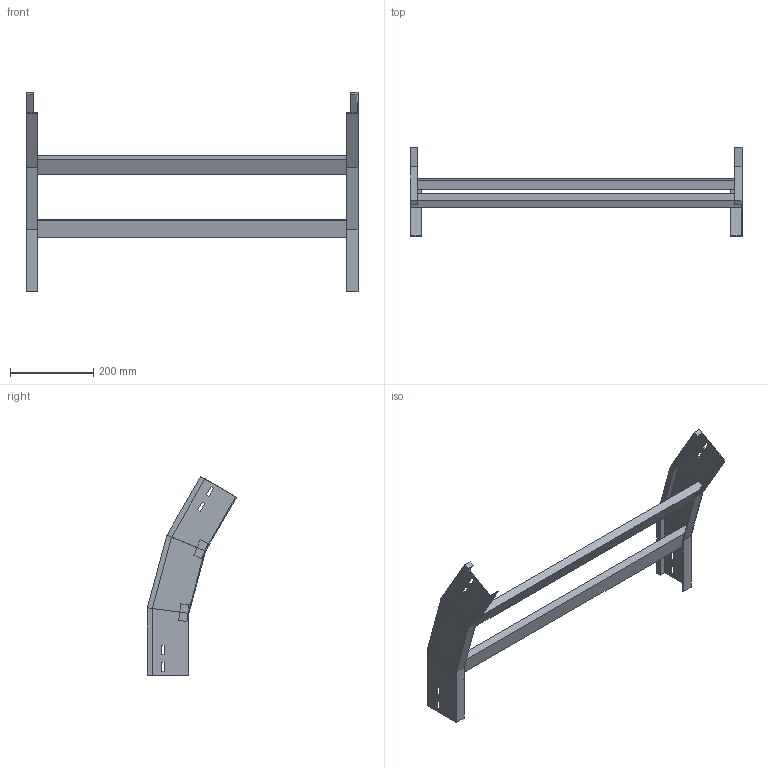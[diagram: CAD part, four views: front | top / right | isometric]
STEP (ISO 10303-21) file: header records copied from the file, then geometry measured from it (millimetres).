
FILE_DESCRIPTION (( 'STEP AP214' ), '1' );
FILE_NAME ('A2_35B3D800.step', '2025-02-21T14:46:31', ( '' ), ( '' ), 'SwSTEP 2.0', 'SolidWorks 2023', '' );
FILE_SCHEMA (( 'AUTOMOTIVE_DESIGN' ));
Length unit declared in the file: millimetre
Products named in the file (3): LONGH.DISCESA_30°_H100_R300; A2_35B3D800; TRAVERSINO_800
Assembly tree (5 placements, depth 2):
  A2_35B3D800
    LONGH.DISCESA_30°_H100_R300  x2
    TRAVERSINO_800  x3
Bounding box: 800 x 215.12 x 479.62 mm (x, y, z)
Volume: 2363629.4 mm3; surface area: 568263.6 mm2
Topology: 5 solids, 5 shells, 102 faces, 244 edges, 152 vertices
Faces by surface type: plane 102
Entity records: 1480 total; most frequent: CARTESIAN_POINT 244, ORIENTED_EDGE 232, DIRECTION 228, EDGE_CURVE 116, VECTOR 116, LINE 116, VERTEX_POINT 72, AXIS2_PLACEMENT_3D 56
